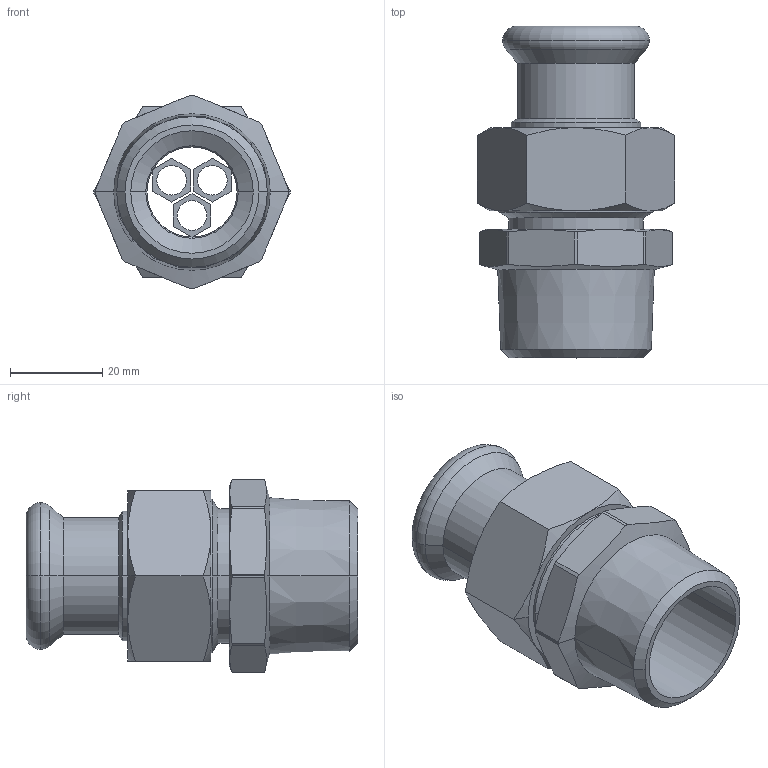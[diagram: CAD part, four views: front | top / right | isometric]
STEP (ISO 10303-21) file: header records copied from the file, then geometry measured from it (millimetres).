
FILE_DESCRIPTION(('OneSpaceDesigner STEP Export'),'2;1');
FILE_NAME('R2735 22xRp1.stp','2010-06-10T13:49:57',(''),(''),'OneSpace Designer STEP processor for AP214 (Solid Model)','OneSpace Modeling 15.00A 14-Mar-2007 (C) CoCreate Software GmbH','');
FILE_SCHEMA(('AUTOMOTIVE_DESIGN { 1 0 10303 214 1 1 1 1 }'));
Length unit declared in the file: millimetre
Products named in the file (2): R2735_22xRp1
Assembly tree (1 placements, depth 2):
  R2735_22xRp1
    R2735_22xRp1
Bounding box: 42.72 x 71.8 x 41.91 mm (x, y, z)
Volume: 32399.7 mm3; surface area: 17909.1 mm2
Topology: 1 solids, 1 shells, 153 faces, 377 edges, 232 vertices
Faces by surface type: cone 51, plane 49, cylinder 45, torus 8
Entity records: 5540 total; most frequent: CARTESIAN_POINT 2420, ORIENTED_EDGE 754, DIRECTION 475, EDGE_CURVE 377, VERTEX_POINT 232, VECTOR 173, LINE 173, EDGE_LOOP 167
